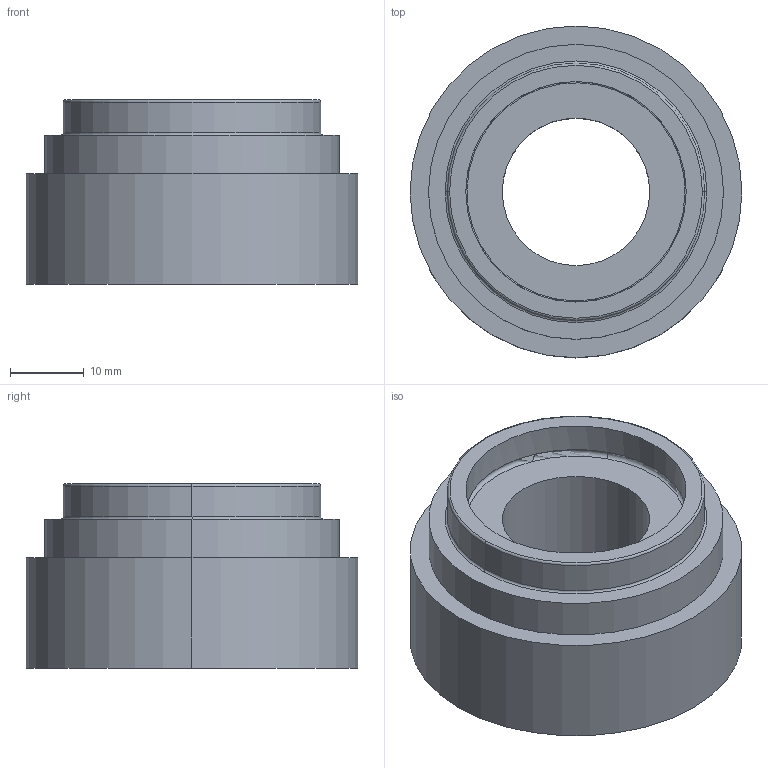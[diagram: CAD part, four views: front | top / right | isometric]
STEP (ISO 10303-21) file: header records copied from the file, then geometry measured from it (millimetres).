
FILE_DESCRIPTION(('CATIA V5 STEP Exchange'),'2;1');
FILE_NAME('C:\Users\Laurent\Desktop\Sujet National E33\CFAO Catia\Bague coulissantePh20.stp','2017-01-26T14:00:12+00:00',('none'),('none'),'CATIA Version 5 Release 19 GA (IN-10)','CATIA V5 STEP AP203','none');
FILE_SCHEMA(('CONFIG_CONTROL_DESIGN'));
Length unit declared in the file: millimetre
Products named in the file (1): Bague coulissante
Bounding box: 45 x 45 x 25 mm (x, y, z)
Volume: 25211.4 mm3; surface area: 7575.6 mm2
Topology: 1 solids, 1 shells, 21 faces, 44 edges, 28 vertices
Faces by surface type: cylinder 10, torus 6, plane 5
Entity records: 562 total; most frequent: CARTESIAN_POINT 88, ORIENTED_EDGE 88, DIRECTION 74, AXIS2_PLACEMENT_3D 50, EDGE_CURVE 44, CIRCLE 34, VERTEX_POINT 28, EDGE_LOOP 26
